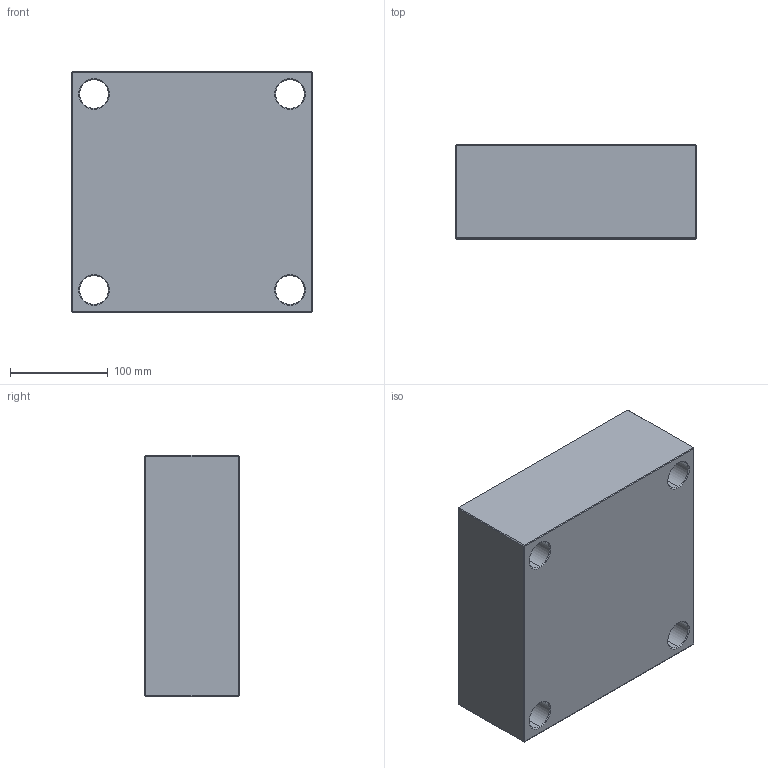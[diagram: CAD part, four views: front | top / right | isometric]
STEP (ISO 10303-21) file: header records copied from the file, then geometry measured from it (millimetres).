
FILE_DESCRIPTION (( 'STEP AP214' ), '1' );
FILE_NAME ('PCX-246x246x96.STEP', '2020-04-30T17:10:46', ( 'August' ), ( '' ), 'SwSTEP 2.0', 'SolidWorks 2018', '' );
FILE_SCHEMA (( 'AUTOMOTIVE_DESIGN' ));
Length unit declared in the file: millimetre
Products named in the file (1): PCX-246x246x96
Bounding box: 246 x 96 x 246 mm (x, y, z)
Volume: 5527781.2 mm3; surface area: 247739.1 mm2
Topology: 1 solids, 1 shells, 82 faces, 168 edges, 96 vertices
Faces by surface type: plane 34, cone 24, cylinder 24
Entity records: 2170 total; most frequent: DIRECTION 406, CARTESIAN_POINT 347, ORIENTED_EDGE 336, EDGE_CURVE 168, AXIS2_PLACEMENT_3D 155, EDGE_LOOP 98, LINE 96, VECTOR 96
